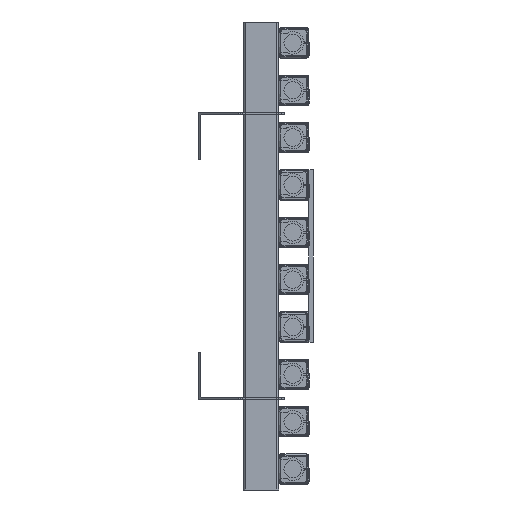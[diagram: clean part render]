
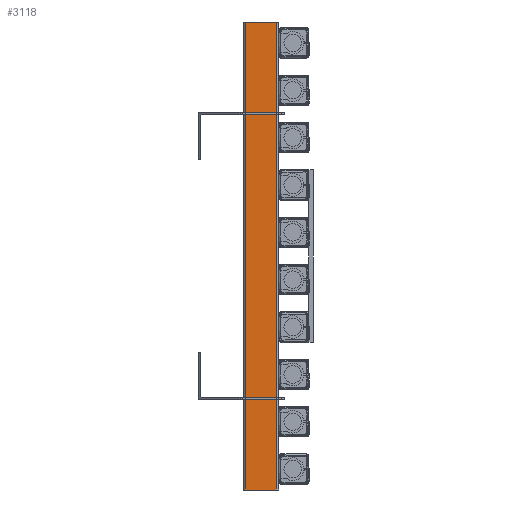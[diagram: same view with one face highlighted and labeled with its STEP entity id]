
A CAD part, front view. The second image highlights one B-rep face of the part: STEP entity #3118.
In plain terms, the highlighted planar face has unit normal (0, -1, 0).
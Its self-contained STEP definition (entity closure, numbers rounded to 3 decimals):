
#623 = EDGE_CURVE ( 'NONE', #6997, #6999, #2575, .T. ) ;
#741 = EDGE_CURVE ( 'NONE', #6998, #7000, #2596, .T. ) ;
#850 = EDGE_CURVE ( 'NONE', #6998, #6997, #6790, .T. ) ;
#926 = EDGE_CURVE ( 'NONE', #7000, #6999, #6827, .T. ) ;
#2575 = LINE ( 'NONE', #4306, #2578 ) ;
#2578 = VECTOR ( 'NONE', #4307, 1000. ) ;
#2595 = VECTOR ( 'NONE', #4826, 1000. ) ;
#2596 = LINE ( 'NONE', #4825, #2595 ) ;
#3118 = ADVANCED_FACE ( 'NONE', ( #6756 ), #5904, .F. ) ;
#3417 = ORIENTED_EDGE ( 'NONE', *, *, #741, .F. ) ;
#3567 = ORIENTED_EDGE ( 'NONE', *, *, #850, .T. ) ;
#3671 = ORIENTED_EDGE ( 'NONE', *, *, #926, .F. ) ;
#3871 = ORIENTED_EDGE ( 'NONE', *, *, #623, .T. ) ;
#4306 = CARTESIAN_POINT ( 'NONE',  ( 0., -17.659, -36.844 ) ) ;
#4307 = DIRECTION ( 'NONE',  ( 0., 0., -1. ) ) ;
#4589 = CARTESIAN_POINT ( 'NONE',  ( 415., -17.659, 12.367 ) ) ;
#4590 = DIRECTION ( 'NONE',  ( -1., 0., 0. ) ) ;
#4825 = CARTESIAN_POINT ( 'NONE',  ( 415., -17.659, -36.844 ) ) ;
#4826 = DIRECTION ( 'NONE',  ( 0., 0., -1. ) ) ;
#5703 = CARTESIAN_POINT ( 'NONE',  ( 0., -17.659, 12.367 ) ) ;
#5704 = CARTESIAN_POINT ( 'NONE',  ( 415., -17.659, 12.367 ) ) ;
#5705 = CARTESIAN_POINT ( 'NONE',  ( 0., -17.659, -14.633 ) ) ;
#5706 = CARTESIAN_POINT ( 'NONE',  ( 415., -17.659, -14.633 ) ) ;
#5904 = PLANE ( 'NONE',  #9026 ) ;
#5905 = CARTESIAN_POINT ( 'NONE',  ( 415., -17.659, -36.844 ) ) ;
#5906 = DIRECTION ( 'NONE',  ( 0., 1., 0. ) ) ;
#5907 = DIRECTION ( 'NONE',  ( 0., 0., 1. ) ) ;
#6756 = FACE_OUTER_BOUND ( 'NONE', #7989, .T. ) ;
#6790 = LINE ( 'NONE', #4589, #6791 ) ;
#6791 = VECTOR ( 'NONE', #4590, 1000. ) ;
#6827 = LINE ( 'NONE', #7537, #6828 ) ;
#6828 = VECTOR ( 'NONE', #7538, 1000. ) ;
#6997 = VERTEX_POINT ( 'NONE', #5703 ) ;
#6998 = VERTEX_POINT ( 'NONE', #5704 ) ;
#6999 = VERTEX_POINT ( 'NONE', #5705 ) ;
#7000 = VERTEX_POINT ( 'NONE', #5706 ) ;
#7537 = CARTESIAN_POINT ( 'NONE',  ( 415., -17.659, -14.633 ) ) ;
#7538 = DIRECTION ( 'NONE',  ( -1., 0., 0. ) ) ;
#7989 = EDGE_LOOP ( 'NONE', ( #3871, #3671, #3417, #3567 ) ) ;
#9026 = AXIS2_PLACEMENT_3D ( 'NONE', #5905, #5906, #5907 ) ;
